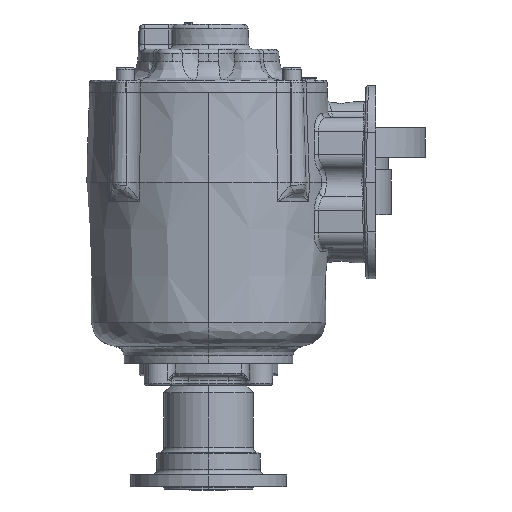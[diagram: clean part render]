
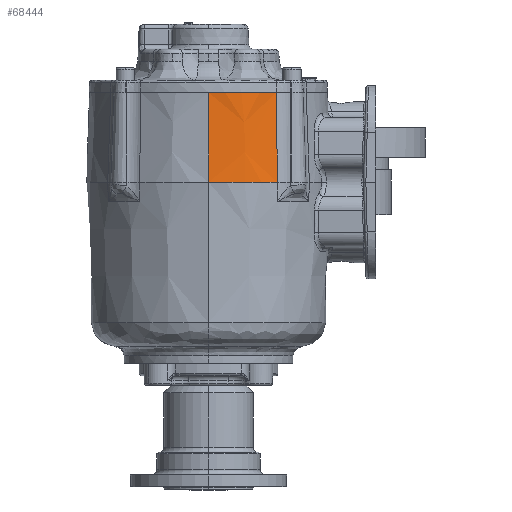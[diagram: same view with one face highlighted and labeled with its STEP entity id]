
A CAD part, left-side view. The second image highlights one B-rep face of the part: STEP entity #68444.
In plain terms, the highlighted conical face has half-angle 2 degrees and reference radius 78.232 mm.
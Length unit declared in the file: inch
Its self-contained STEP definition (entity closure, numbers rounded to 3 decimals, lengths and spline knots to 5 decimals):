
#3240 = CARTESIAN_POINT ( 'NONE',  ( -3.95359, 1.86514, 2.61184 ) ) ;
#13521 = CONICAL_SURFACE ( 'NONE', #141462, 3.08, 0.035 ) ;
#14687 = FACE_OUTER_BOUND ( 'NONE', #147905, .T. ) ;
#18044 = DIRECTION ( 'NONE',  ( -1., 0., 0. ) ) ;
#20396 = CARTESIAN_POINT ( 'NONE',  ( -3.95359, 1.71328, 2.61184 ) ) ;
#21536 = CARTESIAN_POINT ( 'NONE',  ( -3.41704, 0.15272, 2.61184 ) ) ;
#22649 = CARTESIAN_POINT ( 'NONE',  ( -3.58087, 0.40873, 2.61184 ) ) ;
#27241 = VECTOR ( 'NONE', #58523, 39.37008 ) ;
#34739 = DIRECTION ( 'NONE',  ( 0., 0., -1. ) ) ;
#37565 = CARTESIAN_POINT ( 'NONE',  ( -3.8961, 1.26118, 2.61184 ) ) ;
#40372 = ORIENTED_EDGE ( 'NONE', *, *, #111440, .T. ) ;
#54758 = CARTESIAN_POINT ( 'NONE',  ( -3.5037, 0.27743, 2.61184 ) ) ;
#58523 = DIRECTION ( 'NONE',  ( -0.035, 0., -0.999 ) ) ;
#61239 = CARTESIAN_POINT ( 'NONE',  ( -3.49656, 0.12877, 0.34734 ) ) ;
#61406 = ORIENTED_EDGE ( 'NONE', *, *, #65327, .T. ) ;
#65327 = EDGE_CURVE ( 'NONE', #104256, #114742, #137200, .T. ) ;
#66173 = DIRECTION ( 'NONE',  ( 0., 0., -1. ) ) ;
#68444 = ADVANCED_FACE ( 'NONE', ( #14687 ), #13521, .T. ) ;
#69133 = CARTESIAN_POINT ( 'NONE',  ( -0.95267, 1.86514, 0.34734 ) ) ;
#71035 = B_SPLINE_CURVE_WITH_KNOTS ( 'NONE', 3,
 ( #149701, #76481, #77588, #200117 ),
 .UNSPECIFIED., .F., .F.,
 ( 4, 4 ),
 ( 0., 1. ),
 .UNSPECIFIED. ) ;
#76481 = CARTESIAN_POINT ( 'NONE',  ( -3.46942, 0.13709, 1.12355 ) ) ;
#77588 = CARTESIAN_POINT ( 'NONE',  ( -3.44291, 0.14507, 1.87838 ) ) ;
#92440 = CARTESIAN_POINT ( 'NONE',  ( -3.71447, 0.6815, 2.61184 ) ) ;
#100511 = CIRCLE ( 'NONE', #173617, 3.08 ) ;
#104256 = VERTEX_POINT ( 'NONE', #177239 ) ;
#104558 = DIRECTION ( 'NONE',  ( 1., 0., 0. ) ) ;
#107362 = CARTESIAN_POINT ( 'NONE',  ( -3.94204, 1.56141, 2.61184 ) ) ;
#111440 = EDGE_CURVE ( 'NONE', #211004, #104256, #71035, .T. ) ;
#114742 = VERTEX_POINT ( 'NONE', #171267 ) ;
#118149 = CARTESIAN_POINT ( 'NONE',  ( -4.03267, 1.86514, 0.34734 ) ) ;
#124568 = CARTESIAN_POINT ( 'NONE',  ( -3.7709, 0.82297, 2.61184 ) ) ;
#128462 = EDGE_CURVE ( 'NONE', #114742, #171845, #179916, .T. ) ;
#137200 = B_SPLINE_CURVE_WITH_KNOTS ( 'NONE', 3,
 ( #21536, #54758, #22649, #92440, #124568, #194435, #37565, #107362, #20396, #3240 ),
 .UNSPECIFIED., .F., .F.,
 ( 4, 2, 2, 2, 4 ),
 ( 0., 0.25, 0.5, 0.75, 1. ),
 .UNSPECIFIED. ) ;
#141462 = AXIS2_PLACEMENT_3D ( 'NONE', #208119, #66173, #18044 ) ;
#147905 = EDGE_LOOP ( 'NONE', ( #61406, #219510, #215256, #40372 ) ) ;
#149701 = CARTESIAN_POINT ( 'NONE',  ( -3.49656, 0.12877, 0.34734 ) ) ;
#160489 = CARTESIAN_POINT ( 'NONE',  ( -4.03267, 1.86514, 0.34734 ) ) ;
#171267 = CARTESIAN_POINT ( 'NONE',  ( -3.95359, 1.86514, 2.61184 ) ) ;
#171845 = VERTEX_POINT ( 'NONE', #118149 ) ;
#173617 = AXIS2_PLACEMENT_3D ( 'NONE', #69133, #34739, #104558 ) ;
#177239 = CARTESIAN_POINT ( 'NONE',  ( -3.41704, 0.15272, 2.61184 ) ) ;
#179916 = LINE ( 'NONE', #160489, #27241 ) ;
#194435 = CARTESIAN_POINT ( 'NONE',  ( -3.86172, 1.11281, 2.61184 ) ) ;
#200117 = CARTESIAN_POINT ( 'NONE',  ( -3.41704, 0.15272, 2.61184 ) ) ;
#208119 = CARTESIAN_POINT ( 'NONE',  ( -0.95267, 1.86514, 0.34734 ) ) ;
#211004 = VERTEX_POINT ( 'NONE', #61239 ) ;
#211298 = EDGE_CURVE ( 'NONE', #211004, #171845, #100511, .T. ) ;
#215256 = ORIENTED_EDGE ( 'NONE', *, *, #211298, .F. ) ;
#219510 = ORIENTED_EDGE ( 'NONE', *, *, #128462, .T. ) ;
